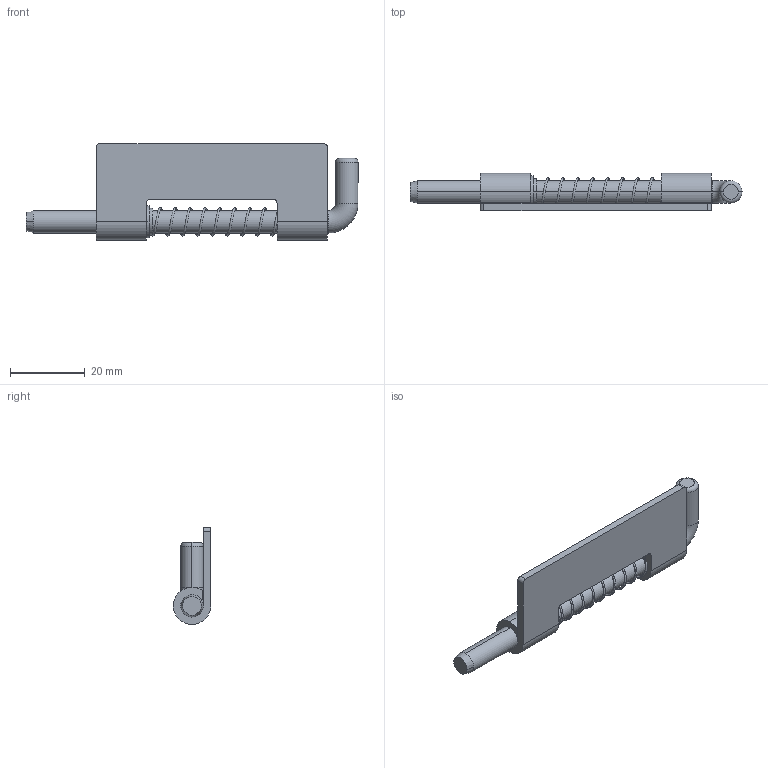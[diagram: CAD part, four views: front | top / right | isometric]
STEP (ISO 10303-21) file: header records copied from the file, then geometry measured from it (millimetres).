
FILE_DESCRIPTION (( 'STEP AP203' ), '1' );
FILE_NAME ('B12-01010.STEP', '2024-07-31T00:25:35', ( '' ), ( '' ), 'SwSTEP 2.0', 'SolidWorks 2021', '' );
FILE_SCHEMA (( 'CONFIG_CONTROL_DESIGN' ));
Length unit declared in the file: millimetre
Products named in the file (4): B12-01010-軸; B12-01010-1; B12-01010; B12-01010-彈
Assembly tree (3 placements, depth 2):
  B12-01010
    B12-01010-1
    B12-01010-軸
    B12-01010-彈
Bounding box: 89 x 10 x 26 mm (x, y, z)
Volume: 6272.3 mm3; surface area: 6279.4 mm2
Topology: 3 solids, 3 shells, 57 faces, 144 edges, 94 vertices
Faces by surface type: cylinder 30, plane 19, torus 4, cone 2, bspline 2
Entity records: 5590 total; most frequent: CARTESIAN_POINT 3787, DIRECTION 318, ORIENTED_EDGE 288, EDGE_CURVE 144, AXIS2_PLACEMENT_3D 131, VERTEX_POINT 94, CIRCLE 70, EDGE_LOOP 60
